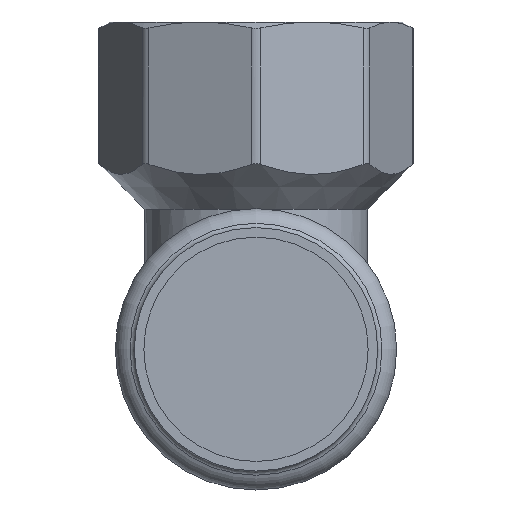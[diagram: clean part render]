
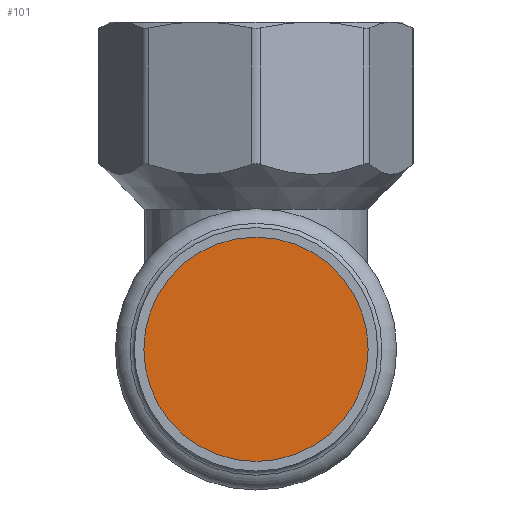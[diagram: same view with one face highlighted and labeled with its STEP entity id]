
A CAD part, front view. The second image highlights one B-rep face of the part: STEP entity #101.
In plain terms, the highlighted planar face has unit normal (0, -1, 0).
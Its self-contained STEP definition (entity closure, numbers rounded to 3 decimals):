
#101=ADVANCED_FACE('',(#484),#486,.T.);
#484=FACE_BOUND('',#485,.T.);
#485=EDGE_LOOP('',(#672));
#486=PLANE('',#487);
#487=AXIS2_PLACEMENT_3D('',#488,#489,#490);
#488=CARTESIAN_POINT('',(0.,-48.743,0.));
#489=DIRECTION('',(0.,-1.,0.));
#490=DIRECTION('',(0.,0.,-1.));
#672=ORIENTED_EDGE('',*,*,#763,.T.);
#763=EDGE_CURVE('',#920,#920,#921,.F.);
#920=VERTEX_POINT('',#2471);
#921=CIRCLE('',#2472,17.65);
#2471=CARTESIAN_POINT('',(0.,-48.743,17.65));
#2472=AXIS2_PLACEMENT_3D('',#2473,#2474,#2475);
#2473=CARTESIAN_POINT('',(0.,-48.743,0.));
#2474=DIRECTION('',(0.,1.,0.));
#2475=DIRECTION('',(0.,0.,1.));
